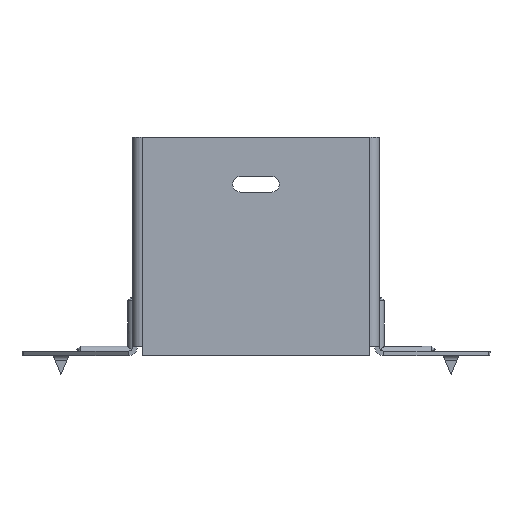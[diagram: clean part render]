
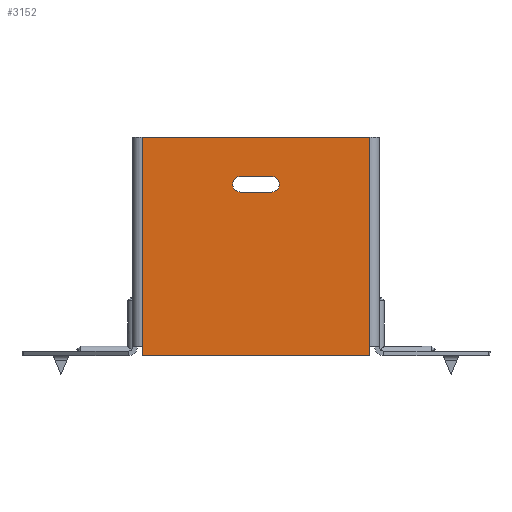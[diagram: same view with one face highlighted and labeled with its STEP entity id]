
A CAD part, front view. The second image highlights one B-rep face of the part: STEP entity #3152.
In plain terms, the highlighted planar face has unit normal (0, -1, 0).
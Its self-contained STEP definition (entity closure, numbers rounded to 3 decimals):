
#130 = ORIENTED_EDGE ( 'NONE', *, *, #12257, .F. ) ;
#302 = CARTESIAN_POINT ( 'NONE',  ( -38., 0., 0. ) ) ;
#311 = CARTESIAN_POINT ( 'NONE',  ( 5., 0., -17.5 ) ) ;
#717 = CARTESIAN_POINT ( 'NONE',  ( -5., 0., -12.5 ) ) ;
#924 = FACE_BOUND ( 'NONE', #9834, .T. ) ;
#1140 = CARTESIAN_POINT ( 'NONE',  ( -5., 0., -17.5 ) ) ;
#1202 = EDGE_CURVE ( 'NONE', #8755, #18069, #7698, .T. ) ;
#1433 = EDGE_CURVE ( 'NONE', #10920, #3354, #14172, .T. ) ;
#2026 = ORIENTED_EDGE ( 'NONE', *, *, #14990, .T. ) ;
#2064 = CIRCLE ( 'NONE', #6954, 2.5 ) ;
#3152 = ADVANCED_FACE ( 'NONE', ( #924, #5888 ), #18475, .F. ) ;
#3305 = CARTESIAN_POINT ( 'NONE',  ( -36.5, 0., -70. ) ) ;
#3354 = VERTEX_POINT ( 'NONE', #12889 ) ;
#3356 = CARTESIAN_POINT ( 'NONE',  ( 5., 0., -15. ) ) ;
#3643 = EDGE_CURVE ( 'NONE', #14276, #11358, #4082, .T. ) ;
#3706 = EDGE_LOOP ( 'NONE', ( #14996, #7940, #130, #11475, #9327, #14447 ) ) ;
#3737 = LINE ( 'NONE', #4962, #7789 ) ;
#3850 = LINE ( 'NONE', #8898, #11264 ) ;
#4082 = LINE ( 'NONE', #12321, #16454 ) ;
#4298 = ORIENTED_EDGE ( 'NONE', *, *, #1202, .T. ) ;
#4310 = VERTEX_POINT ( 'NONE', #3305 ) ;
#4395 = CARTESIAN_POINT ( 'NONE',  ( 5., 0., -12.5 ) ) ;
#4427 = VERTEX_POINT ( 'NONE', #7709 ) ;
#4603 = DIRECTION ( 'NONE',  ( 1., 0., 0. ) ) ;
#4749 = DIRECTION ( 'NONE',  ( 0., 1., 0. ) ) ;
#4962 = CARTESIAN_POINT ( 'NONE',  ( -38., 0., -70. ) ) ;
#5452 = DIRECTION ( 'NONE',  ( 0., 0., -1. ) ) ;
#5479 = EDGE_CURVE ( 'NONE', #4427, #8755, #15507, .T. ) ;
#5604 = DIRECTION ( 'NONE',  ( 0., 0., 1. ) ) ;
#5772 = VERTEX_POINT ( 'NONE', #17486 ) ;
#5888 = FACE_OUTER_BOUND ( 'NONE', #3706, .T. ) ;
#6343 = DIRECTION ( 'NONE',  ( 0., 0., 1. ) ) ;
#6438 = CARTESIAN_POINT ( 'NONE',  ( -36.5, 0., -67. ) ) ;
#6954 = AXIS2_PLACEMENT_3D ( 'NONE', #13666, #16304, #7835 ) ;
#7317 = CARTESIAN_POINT ( 'NONE',  ( -36.5, 0., 0. ) ) ;
#7698 = CIRCLE ( 'NONE', #17708, 2.5 ) ;
#7709 = CARTESIAN_POINT ( 'NONE',  ( -5., 0., -12.5 ) ) ;
#7782 = CARTESIAN_POINT ( 'NONE',  ( 36.5, 0., -70. ) ) ;
#7789 = VECTOR ( 'NONE', #17951, 1000. ) ;
#7835 = DIRECTION ( 'NONE',  ( 0., 0., 1. ) ) ;
#7940 = ORIENTED_EDGE ( 'NONE', *, *, #13675, .T. ) ;
#8265 = CARTESIAN_POINT ( 'NONE',  ( -36.5, 0., 0. ) ) ;
#8289 = ORIENTED_EDGE ( 'NONE', *, *, #15378, .T. ) ;
#8755 = VERTEX_POINT ( 'NONE', #4395 ) ;
#8847 = EDGE_CURVE ( 'NONE', #5772, #10920, #12474, .T. ) ;
#8875 = VECTOR ( 'NONE', #5452, 1000. ) ;
#8898 = CARTESIAN_POINT ( 'NONE',  ( -5., 0., -17.5 ) ) ;
#9327 = ORIENTED_EDGE ( 'NONE', *, *, #1433, .T. ) ;
#9369 = CARTESIAN_POINT ( 'NONE',  ( 36.5, 0., -67. ) ) ;
#9414 = DIRECTION ( 'NONE',  ( 1., 0., 0. ) ) ;
#9585 = VECTOR ( 'NONE', #6343, 1000. ) ;
#9834 = EDGE_LOOP ( 'NONE', ( #8289, #2026, #14549, #4298 ) ) ;
#10159 = EDGE_CURVE ( 'NONE', #14276, #3354, #10881, .T. ) ;
#10658 = DIRECTION ( 'NONE',  ( 0., 0., 1. ) ) ;
#10670 = VERTEX_POINT ( 'NONE', #1140 ) ;
#10881 = LINE ( 'NONE', #302, #18505 ) ;
#10920 = VERTEX_POINT ( 'NONE', #9369 ) ;
#11264 = VECTOR ( 'NONE', #16174, 1000. ) ;
#11358 = VERTEX_POINT ( 'NONE', #6438 ) ;
#11475 = ORIENTED_EDGE ( 'NONE', *, *, #8847, .T. ) ;
#11708 = VECTOR ( 'NONE', #9414, 1000. ) ;
#12257 = EDGE_CURVE ( 'NONE', #5772, #4310, #3737, .T. ) ;
#12321 = CARTESIAN_POINT ( 'NONE',  ( -36.5, 0., 0. ) ) ;
#12474 = LINE ( 'NONE', #7782, #9585 ) ;
#12577 = CARTESIAN_POINT ( 'NONE',  ( 0., 0., 0. ) ) ;
#12677 = LINE ( 'NONE', #8265, #8875 ) ;
#12889 = CARTESIAN_POINT ( 'NONE',  ( 36.5, 0., 0. ) ) ;
#13217 = DIRECTION ( 'NONE',  ( 0., 0., 1. ) ) ;
#13666 = CARTESIAN_POINT ( 'NONE',  ( -5., 0., -15. ) ) ;
#13675 = EDGE_CURVE ( 'NONE', #11358, #4310, #12677, .T. ) ;
#14172 = LINE ( 'NONE', #15226, #15526 ) ;
#14276 = VERTEX_POINT ( 'NONE', #7317 ) ;
#14447 = ORIENTED_EDGE ( 'NONE', *, *, #10159, .F. ) ;
#14483 = AXIS2_PLACEMENT_3D ( 'NONE', #12577, #15170, #5604 ) ;
#14549 = ORIENTED_EDGE ( 'NONE', *, *, #5479, .T. ) ;
#14990 = EDGE_CURVE ( 'NONE', #10670, #4427, #2064, .T. ) ;
#14996 = ORIENTED_EDGE ( 'NONE', *, *, #3643, .T. ) ;
#15170 = DIRECTION ( 'NONE',  ( 0., 1., 0. ) ) ;
#15226 = CARTESIAN_POINT ( 'NONE',  ( 36.5, 0., -70. ) ) ;
#15378 = EDGE_CURVE ( 'NONE', #18069, #10670, #3850, .T. ) ;
#15442 = DIRECTION ( 'NONE',  ( 0., 0., -1. ) ) ;
#15507 = LINE ( 'NONE', #717, #11708 ) ;
#15526 = VECTOR ( 'NONE', #10658, 1000. ) ;
#16174 = DIRECTION ( 'NONE',  ( -1., 0., 0. ) ) ;
#16304 = DIRECTION ( 'NONE',  ( 0., 1., 0. ) ) ;
#16454 = VECTOR ( 'NONE', #15442, 1000. ) ;
#17486 = CARTESIAN_POINT ( 'NONE',  ( 36.5, 0., -70. ) ) ;
#17708 = AXIS2_PLACEMENT_3D ( 'NONE', #3356, #4749, #13217 ) ;
#17951 = DIRECTION ( 'NONE',  ( -1., 0., 0. ) ) ;
#18069 = VERTEX_POINT ( 'NONE', #311 ) ;
#18475 = PLANE ( 'NONE',  #14483 ) ;
#18505 = VECTOR ( 'NONE', #4603, 1000. ) ;
